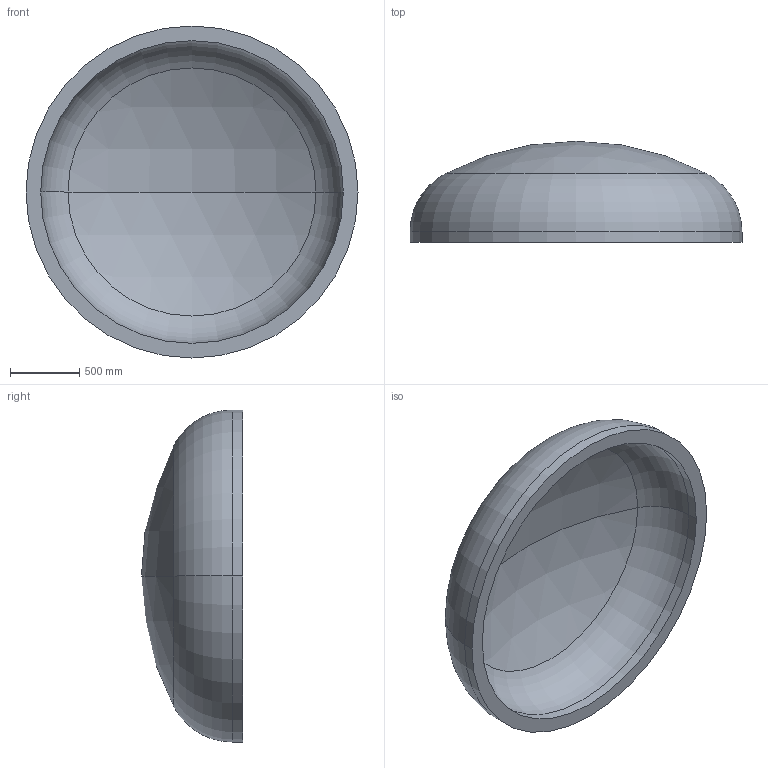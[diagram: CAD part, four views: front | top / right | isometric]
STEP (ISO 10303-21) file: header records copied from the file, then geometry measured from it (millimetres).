
FILE_DESCRIPTION (( 'STEP AP203' ), '1' );
FILE_NAME ('DIN 28013 Korbbogenform_-_Boden DIN 28013 - 2400 x 75 - I - s=106.step', '2016-07-01T15:43:47', ( '' ), ( '' ), 'SwSTEP 2.0', 'SolidWorks 2013', '' );
FILE_SCHEMA (( 'CONFIG_CONTROL_DESIGN' ));
Length unit declared in the file: millimetre
Products named in the file (1): DIN 28013 Korbbogenform_-_Boden DIN 28013 - 2400 x 75 - I - s=106
Bounding box: 2400 x 730.48 x 2400 mm (x, y, z)
Volume: 684762480 mm3; surface area: 13707497.8 mm2
Topology: 1 solids, 1 shells, 13 faces, 24 edges, 14 vertices
Faces by surface type: torus 4, cylinder 4, sphere 4, plane 1
Entity records: 407 total; most frequent: DIRECTION 72, CARTESIAN_POINT 52, ORIENTED_EDGE 48, AXIS2_PLACEMENT_3D 34, EDGE_CURVE 24, CIRCLE 20, EDGE_LOOP 14, VERTEX_POINT 14
